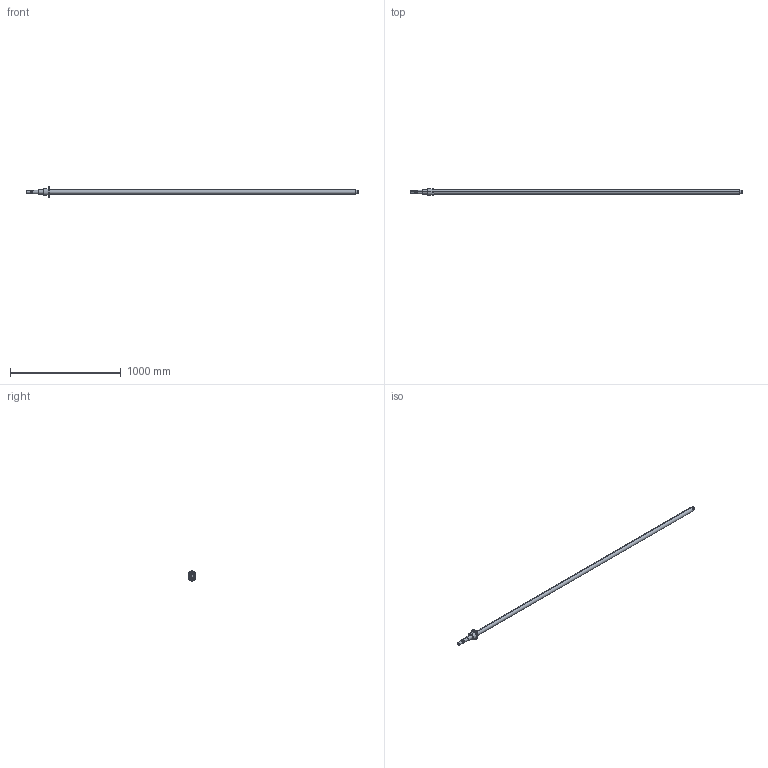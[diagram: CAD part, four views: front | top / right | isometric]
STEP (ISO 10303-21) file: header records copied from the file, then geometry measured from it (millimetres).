
FILE_DESCRIPTION (( 'STEP AP214' ), '1' );
FILE_NAME ('2.2130-SFU4005-3000mm.STEP', '2025-07-22T10:44:45', ( '' ), ( '' ), 'SwSTEP 2.0', 'SolidWorks 2024', '' );
FILE_SCHEMA (( 'AUTOMOTIVE_DESIGN' ));
Length unit declared in the file: millimetre
Products named in the file (3): 2.3020 Kuularuuvimutteri SFU4005-4; 2.2130-SFU4005-3000mm; 2.2130 SFU4005-3000mm
Assembly tree (2 placements, depth 2):
  2.2130-SFU4005-3000mm
    2.2130 SFU4005-3000mm
    2.3020 Kuularuuvimutteri SFU4005-4
Bounding box: 3000 x 70 x 93 mm (x, y, z)
Volume: 3818352.9 mm3; surface area: 408764.2 mm2
Topology: 3 solids, 3 shells, 118 faces, 298 edges, 195 vertices
Faces by surface type: cylinder 79, plane 22, bspline 10, cone 7
Entity records: 6797 total; most frequent: CARTESIAN_POINT 3961, ORIENTED_EDGE 596, DIRECTION 531, EDGE_CURVE 298, AXIS2_PLACEMENT_3D 215, VERTEX_POINT 195, EDGE_LOOP 147, FACE_OUTER_BOUND 118
